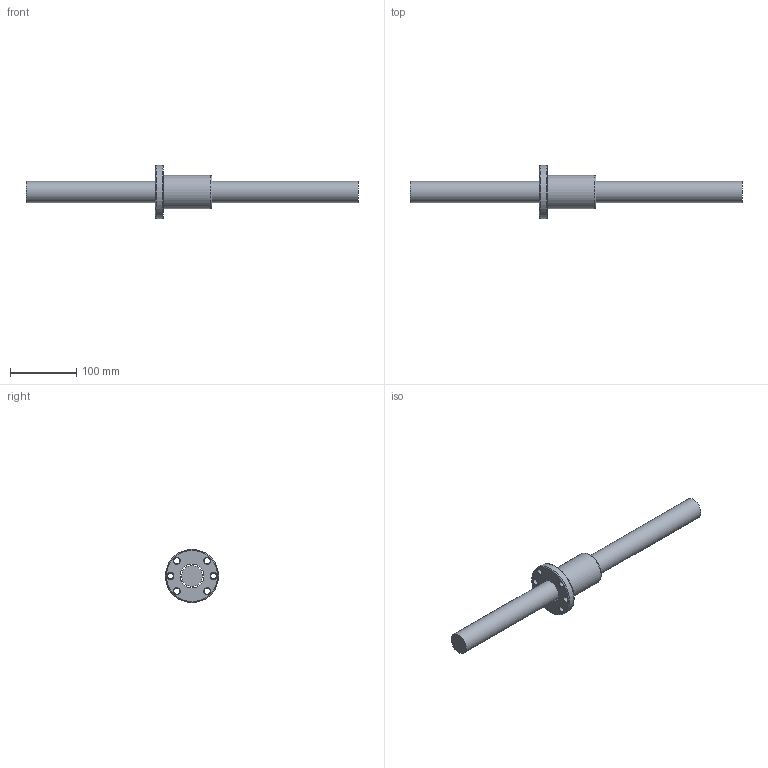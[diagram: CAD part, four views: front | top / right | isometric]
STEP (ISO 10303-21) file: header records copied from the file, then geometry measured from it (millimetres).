
FILE_DESCRIPTION (( 'STEP AP203' ), '1' );
FILE_NAME ('SFNU03210N-4.step', '2024-05-10T07:00:30', ( '' ), ( '' ), 'SwSTEP 2.0', 'SolidWorks 2022', '' );
FILE_SCHEMA (( 'CONFIG_CONTROL_DESIGN' ));
Length unit declared in the file: millimetre
Products named in the file (1): SFNU03210N-4
Bounding box: 500 x 80 x 80 mm (x, y, z)
Volume: 512827.1 mm3; surface area: 84999.4 mm2
Topology: 2 solids, 2 shells, 45 faces, 111 edges, 71 vertices
Faces by surface type: cylinder 18, cone 13, plane 6, bspline 5, torus 3
Full cylindrical faces by diameter (mm): 4 x1, 5 x6, 9 x6, 32 x1, 36.1 x1, 50 x1, 80 x1
Entity records: 2707 total; most frequent: CARTESIAN_POINT 1912, DIRECTION 148, ORIENTED_EDGE 102, EDGE_LOOP 84, AXIS2_PLACEMENT_3D 72, FACE_OUTER_BOUND 54, EDGE_CURVE 51, VERTEX_POINT 47
